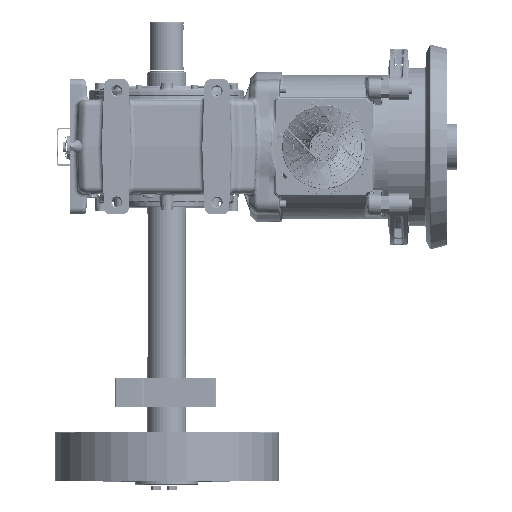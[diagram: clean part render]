
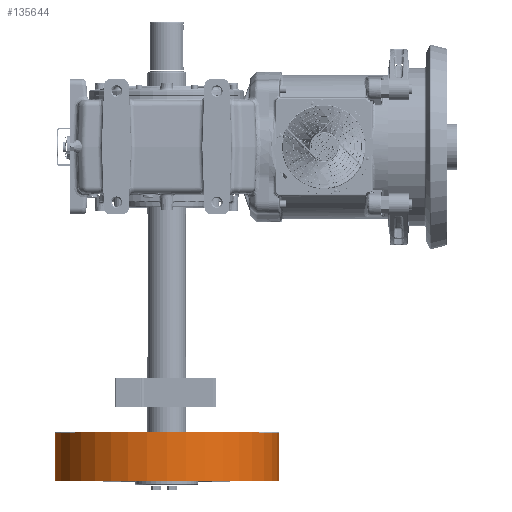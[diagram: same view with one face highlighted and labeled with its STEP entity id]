
A CAD part, top view. The second image highlights one B-rep face of the part: STEP entity #135644.
In plain terms, the highlighted cylindrical face has radius 262 mm (diameter 524 mm), a partial arc.
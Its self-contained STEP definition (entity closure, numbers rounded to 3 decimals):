
#128638=CARTESIAN_POINT('',(0.,-781.5,0.));
#128639=DIRECTION('',(0.,-1.,0.));
#128640=DIRECTION('',(1.,0.,0.));
#128641=AXIS2_PLACEMENT_3D('',#128638,#128639,#128640);
#128643=CARTESIAN_POINT('',(0.,-668.5,0.));
#128644=DIRECTION('',(0.,-1.,0.));
#128645=DIRECTION('',(1.,0.,0.));
#128646=AXIS2_PLACEMENT_3D('',#128643,#128644,#128645);
#128653=DIRECTION('',(0.,-1.,0.));
#128654=VECTOR('',#128653,113.);
#128655=CARTESIAN_POINT('',(262.,-668.5,
0.));
#128656=LINE('',#128655,#128654);
#128662=DIRECTION('',(0.,-1.,0.));
#128663=VECTOR('',#128662,113.);
#128664=CARTESIAN_POINT('',(-262.,-668.5,
0.));
#128665=LINE('',#128664,#128663);
#134070=CARTESIAN_POINT('',(-262.,-781.5,0.));
#134071=CARTESIAN_POINT('',(262.,-781.5,0.));
#134072=VERTEX_POINT('',#134070);
#134073=VERTEX_POINT('',#134071);
#134074=CARTESIAN_POINT('',(-262.,-668.5,0.));
#134075=CARTESIAN_POINT('',(262.,-668.5,0.));
#134076=VERTEX_POINT('',#134074);
#134077=VERTEX_POINT('',#134075);
#135630=CARTESIAN_POINT('',(0.,193.063,0.));
#135631=DIRECTION('',(0.,-1.,0.));
#135632=DIRECTION('',(-1.,0.,0.));
#135633=AXIS2_PLACEMENT_3D('',#135630,#135631,#135632);
#135634=CYLINDRICAL_SURFACE('',#135633,262.);
#135635=ORIENTED_EDGE('',*,*,#135624,.T.);
#135637=ORIENTED_EDGE('',*,*,#135636,.F.);
#135639=ORIENTED_EDGE('',*,*,#135638,.F.);
#135641=ORIENTED_EDGE('',*,*,#135640,.T.);
#135642=EDGE_LOOP('',(#135635,#135637,#135639,#135641));
#135643=FACE_OUTER_BOUND('',#135642,.F.);
#135644=ADVANCED_FACE('',(#135643),#135634,.T.);
#128642=CIRCLE('',#128641,262.);
#128647=CIRCLE('',#128646,262.);
#135624=EDGE_CURVE('',#134073,#134072,#128642,.T.);
#135636=EDGE_CURVE('',#134076,#134072,#128665,.T.);
#135638=EDGE_CURVE('',#134077,#134076,#128647,.T.);
#135640=EDGE_CURVE('',#134077,#134073,#128656,.T.);
